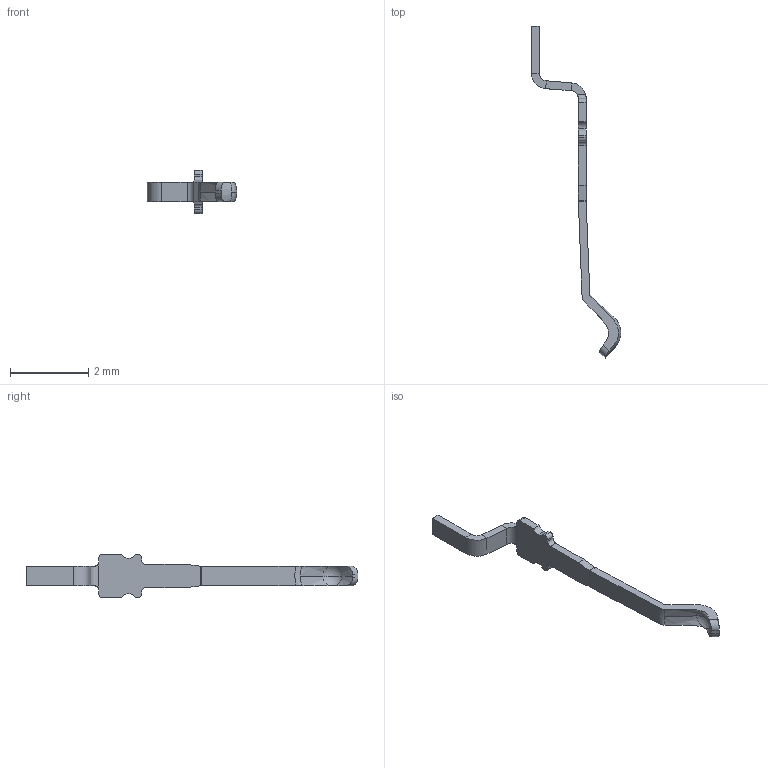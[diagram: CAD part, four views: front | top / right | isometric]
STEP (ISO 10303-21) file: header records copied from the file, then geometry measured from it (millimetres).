
FILE_DESCRIPTION((''),'2;1');
FILE_NAME('T-DSC20-200X00-1_1_PRT','2008-06-30T',('GRA'),(''),'PRO/ENGINEER BY PARAMETRIC TECHNOLOGY CORPORATION, 2006170','PRO/ENGINEER BY PARAMETRIC TECHNOLOGY CORPORATION, 2006170','');
FILE_SCHEMA(('CONFIG_CONTROL_DESIGN'));
Length unit declared in the file: millimetre
Products named in the file (1): T-DSC20-200X00-1_1_PRT
Bounding box: 2.28 x 8.47 x 1.1 mm (x, y, z)
Volume: 1.1 mm3; surface area: 15.5 mm2
Topology: 1 solids, 1 shells, 64 faces, 173 edges, 107 vertices
Faces by surface type: plane 35, cylinder 20, cone 4, sphere 4, torus 1
Entity records: 2141 total; most frequent: CARTESIAN_POINT 519, ORIENTED_EDGE 338, DIRECTION 326, EDGE_CURVE 169, AXIS2_PLACEMENT_3D 115, VERTEX_POINT 107, VECTOR 96, LINE 96
